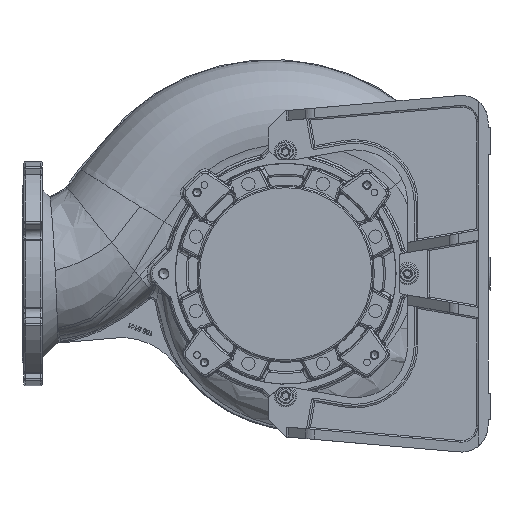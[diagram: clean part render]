
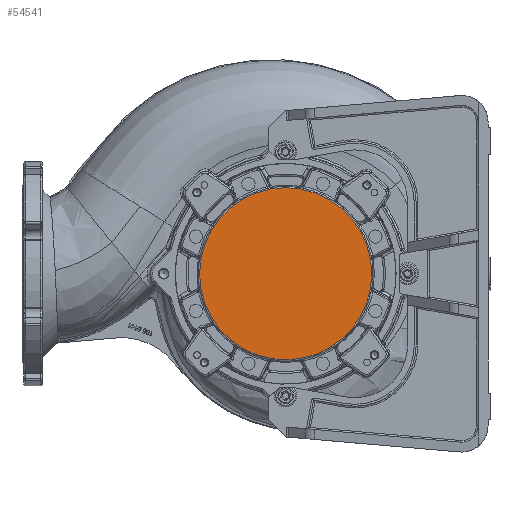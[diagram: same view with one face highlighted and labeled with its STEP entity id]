
A CAD part, front view. The second image highlights one B-rep face of the part: STEP entity #54541.
In plain terms, the highlighted planar face has unit normal (0, -1, 0).
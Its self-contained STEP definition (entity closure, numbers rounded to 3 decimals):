
#5687 = AXIS2_PLACEMENT_3D ( 'NONE', #79039, #116178, #40189 ) ;
#7660 = CARTESIAN_POINT ( 'NONE',  ( 0., -456.3, 0. ) ) ;
#40189 = DIRECTION ( 'NONE',  ( 0., 0., -1. ) ) ;
#46701 = AXIS2_PLACEMENT_3D ( 'NONE', #7660, #95806, #96894 ) ;
#54541 = ADVANCED_FACE ( 'NONE', ( #82586 ), #103404, .T. ) ;
#61264 = EDGE_LOOP ( 'NONE', ( #61459 ) ) ;
#61459 = ORIENTED_EDGE ( 'NONE', *, *, #141782, .T. ) ;
#63542 = VERTEX_POINT ( 'NONE', #68541 ) ;
#68541 = CARTESIAN_POINT ( 'NONE',  ( -130.602, -456.3, 0. ) ) ;
#79039 = CARTESIAN_POINT ( 'NONE',  ( -7.371, -456.3, 0. ) ) ;
#82586 = FACE_OUTER_BOUND ( 'NONE', #61264, .T. ) ;
#92877 = CIRCLE ( 'NONE', #46701, 130.602 ) ;
#95806 = DIRECTION ( 'NONE',  ( 0., -1., 0. ) ) ;
#96894 = DIRECTION ( 'NONE',  ( -1., 0., 0. ) ) ;
#103404 = PLANE ( 'NONE',  #5687 ) ;
#116178 = DIRECTION ( 'NONE',  ( 0., -1., 0. ) ) ;
#141782 = EDGE_CURVE ( 'NONE', #63542, #63542, #92877, .T. ) ;
